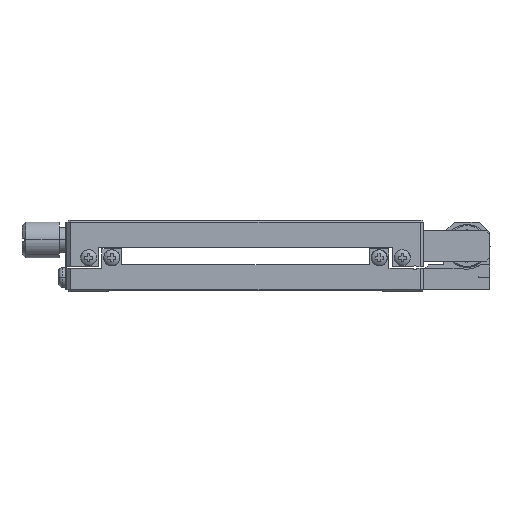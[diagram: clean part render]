
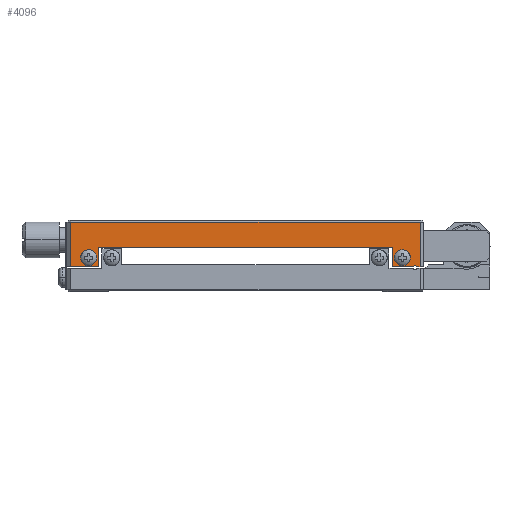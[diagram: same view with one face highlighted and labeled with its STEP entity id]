
A CAD part, left-side view. The second image highlights one B-rep face of the part: STEP entity #4096.
In plain terms, the highlighted planar face has unit normal (-1, 0, 0).
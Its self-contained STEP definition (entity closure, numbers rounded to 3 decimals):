
#850 = DIRECTION ( 'NONE',  ( 0., 0., 1. ) ) ;
#852 = DIRECTION ( 'NONE',  ( -1., 0., 0. ) ) ;
#853 = CARTESIAN_POINT ( 'NONE',  ( -113.597, 14.229, -43.95 ) ) ;
#872 = DIRECTION ( 'NONE',  ( 0., 0., 1. ) ) ;
#874 = DIRECTION ( 'NONE',  ( -1., 0., 0. ) ) ;
#875 = CARTESIAN_POINT ( 'NONE',  ( -113.597, 14.229, 43.95 ) ) ;
#2349 = CARTESIAN_POINT ( 'NONE',  ( -113.597, 11.729, 49. ) ) ;
#2357 = CARTESIAN_POINT ( 'NONE',  ( -113.597, 17.229, 0. ) ) ;
#2411 = CARTESIAN_POINT ( 'NONE',  ( -113.597, 14.229, -46.2 ) ) ;
#2414 = CARTESIAN_POINT ( 'NONE',  ( -113.597, 24.229, 0. ) ) ;
#2579 = DIRECTION ( 'NONE',  ( 0., 0., -1. ) ) ;
#2654 = CARTESIAN_POINT ( 'NONE',  ( -113.597, 14.229, 46.2 ) ) ;
#2660 = CARTESIAN_POINT ( 'NONE',  ( -113.597, 11.729, 48.161 ) ) ;
#2756 = CARTESIAN_POINT ( 'NONE',  ( -113.597, 24.229, 49. ) ) ;
#2858 = CARTESIAN_POINT ( 'NONE',  ( -113.597, 11.729, 46.839 ) ) ;
#2912 = CARTESIAN_POINT ( 'NONE',  ( -113.597, 11.729, -41.2 ) ) ;
#2941 = CARTESIAN_POINT ( 'NONE',  ( -113.597, 11.729, -49. ) ) ;
#2960 = CARTESIAN_POINT ( 'NONE',  ( -113.597, 14.229, -41.7 ) ) ;
#3137 = CARTESIAN_POINT ( 'NONE',  ( -113.597, 14.229, 41.7 ) ) ;
#3341 = EDGE_CURVE ( 'NONE', #14807, #12047, #20256, .T. ) ;
#3386 = EDGE_CURVE ( 'NONE', #14753, #4798, #12445, .T. ) ;
#3397 = EDGE_CURVE ( 'NONE', #4720, #12051, #12453, .T. ) ;
#3449 = EDGE_CURVE ( 'NONE', #4831, #4812, #12534, .T. ) ;
#3490 = EDGE_CURVE ( 'NONE', #4962, #14807, #12602, .T. ) ;
#3500 = EDGE_CURVE ( 'NONE', #17805, #4831, #12616, .T. ) ;
#3535 = EDGE_CURVE ( 'NONE', #4873, #12047, #12658, .T. ) ;
#3558 = EDGE_CURVE ( 'NONE', #4812, #19645, #12692, .T. ) ;
#3561 = EDGE_CURVE ( 'NONE', #17818, #17699, #12688, .T. ) ;
#3607 = EDGE_CURVE ( 'NONE', #4873, #17818, #12778, .T. ) ;
#3649 = DIRECTION ( 'NONE',  ( 0., 0., 1. ) ) ;
#3694 = AXIS2_PLACEMENT_3D ( 'NONE', #16111, #16110, #16108 ) ;
#3699 = AXIS2_PLACEMENT_3D ( 'NONE', #16064, #16063, #16061 ) ;
#3726 = AXIS2_PLACEMENT_3D ( 'NONE', #17110, #16694, #16696 ) ;
#4096 = ADVANCED_FACE ( 'NONE', ( #13396, #13406, #13401 ), #6801, .F. ) ;
#4720 = VERTEX_POINT ( 'NONE', #3137 ) ;
#4798 = VERTEX_POINT ( 'NONE', #2960 ) ;
#4812 = VERTEX_POINT ( 'NONE', #2941 ) ;
#4831 = VERTEX_POINT ( 'NONE', #2912 ) ;
#4873 = VERTEX_POINT ( 'NONE', #2858 ) ;
#4962 = VERTEX_POINT ( 'NONE', #2756 ) ;
#5786 = ORIENTED_EDGE ( 'NONE', *, *, #14990, .F. ) ;
#5787 = ORIENTED_EDGE ( 'NONE', *, *, #3397, .F. ) ;
#5788 = ORIENTED_EDGE ( 'NONE', *, *, #14986, .F. ) ;
#6285 = ORIENTED_EDGE ( 'NONE', *, *, #3490, .F. ) ;
#6287 = ORIENTED_EDGE ( 'NONE', *, *, #3535, .T. ) ;
#6331 = ORIENTED_EDGE ( 'NONE', *, *, #3386, .F. ) ;
#6352 = ORIENTED_EDGE ( 'NONE', *, *, #3449, .F. ) ;
#6360 = ORIENTED_EDGE ( 'NONE', *, *, #14949, .T. ) ;
#6387 = ORIENTED_EDGE ( 'NONE', *, *, #3558, .F. ) ;
#6658 = ORIENTED_EDGE ( 'NONE', *, *, #14950, .T. ) ;
#6666 = ORIENTED_EDGE ( 'NONE', *, *, #3341, .F. ) ;
#6696 = ORIENTED_EDGE ( 'NONE', *, *, #3561, .F. ) ;
#6699 = ORIENTED_EDGE ( 'NONE', *, *, #3500, .F. ) ;
#6701 = ORIENTED_EDGE ( 'NONE', *, *, #3607, .F. ) ;
#6745 = DIRECTION ( 'NONE',  ( 1., 0., 0. ) ) ;
#6751 = CARTESIAN_POINT ( 'NONE',  ( -113.597, 11.729, 49. ) ) ;
#6801 = PLANE ( 'NONE',  #17562 ) ;
#6863 = DIRECTION ( 'NONE',  ( 0., 0., -1. ) ) ;
#12047 = VERTEX_POINT ( 'NONE', #2660 ) ;
#12051 = VERTEX_POINT ( 'NONE', #2654 ) ;
#12445 = CIRCLE ( 'NONE', #3694, 2.25 ) ;
#12453 = CIRCLE ( 'NONE', #3699, 2.25 ) ;
#12534 = LINE ( 'NONE', #17116, #12548 ) ;
#12548 = VECTOR ( 'NONE', #16999, 1000. ) ;
#12602 = LINE ( 'NONE', #16056, #12606 ) ;
#12606 = VECTOR ( 'NONE', #16000, 1000. ) ;
#12616 = LINE ( 'NONE', #17274, #12620 ) ;
#12620 = VECTOR ( 'NONE', #16721, 1000. ) ;
#12658 = CIRCLE ( 'NONE', #3726, 1. ) ;
#12688 = LINE ( 'NONE', #16708, #12702 ) ;
#12692 = LINE ( 'NONE', #16753, #12698 ) ;
#12698 = VECTOR ( 'NONE', #16757, 1000. ) ;
#12702 = VECTOR ( 'NONE', #16759, 1000. ) ;
#12778 = LINE ( 'NONE', #17222, #12784 ) ;
#12784 = VECTOR ( 'NONE', #17225, 1000. ) ;
#13396 = FACE_BOUND ( 'NONE', #19562, .T. ) ;
#13401 = FACE_OUTER_BOUND ( 'NONE', #19575, .T. ) ;
#13406 = FACE_BOUND ( 'NONE', #19571, .T. ) ;
#13634 = LINE ( 'NONE', #2357, #13643 ) ;
#13642 = LINE ( 'NONE', #2414, #13646 ) ;
#13643 = VECTOR ( 'NONE', #3649, 1000. ) ;
#13646 = VECTOR ( 'NONE', #2579, 1000. ) ;
#13685 = CIRCLE ( 'NONE', #17674, 2.25 ) ;
#13691 = CIRCLE ( 'NONE', #17676, 2.25 ) ;
#14753 = VERTEX_POINT ( 'NONE', #2411 ) ;
#14807 = VERTEX_POINT ( 'NONE', #2349 ) ;
#14949 = EDGE_CURVE ( 'NONE', #17805, #17699, #13634, .T. ) ;
#14950 = EDGE_CURVE ( 'NONE', #4962, #19645, #13642, .T. ) ;
#14986 = EDGE_CURVE ( 'NONE', #12051, #4720, #13685, .T. ) ;
#14990 = EDGE_CURVE ( 'NONE', #4798, #14753, #13691, .T. ) ;
#16000 = DIRECTION ( 'NONE',  ( 0., -1., 0. ) ) ;
#16056 = CARTESIAN_POINT ( 'NONE',  ( -113.597, 17.979, 49. ) ) ;
#16061 = DIRECTION ( 'NONE',  ( 0., 0., 1. ) ) ;
#16063 = DIRECTION ( 'NONE',  ( -1., 0., 0. ) ) ;
#16064 = CARTESIAN_POINT ( 'NONE',  ( -113.597, 14.229, 43.95 ) ) ;
#16108 = DIRECTION ( 'NONE',  ( 0., 0., 1. ) ) ;
#16110 = DIRECTION ( 'NONE',  ( -1., 0., 0. ) ) ;
#16111 = CARTESIAN_POINT ( 'NONE',  ( -113.597, 14.229, -43.95 ) ) ;
#16275 = DIRECTION ( 'NONE',  ( 0., 0., -1. ) ) ;
#16287 = CARTESIAN_POINT ( 'NONE',  ( -113.597, 11.729, 0. ) ) ;
#16694 = DIRECTION ( 'NONE',  ( 1., 0., 0. ) ) ;
#16696 = DIRECTION ( 'NONE',  ( 0., 0., -1. ) ) ;
#16708 = CARTESIAN_POINT ( 'NONE',  ( -113.597, 17.979, 41.2 ) ) ;
#16721 = DIRECTION ( 'NONE',  ( 0., -1., 0. ) ) ;
#16753 = CARTESIAN_POINT ( 'NONE',  ( -113.597, 17.979, -49. ) ) ;
#16757 = DIRECTION ( 'NONE',  ( 0., 1., 0. ) ) ;
#16759 = DIRECTION ( 'NONE',  ( 0., 1., 0. ) ) ;
#16999 = DIRECTION ( 'NONE',  ( 0., 0., -1. ) ) ;
#17110 = CARTESIAN_POINT ( 'NONE',  ( -113.597, 10.979, 47.5 ) ) ;
#17116 = CARTESIAN_POINT ( 'NONE',  ( -113.597, 11.729, 0. ) ) ;
#17222 = CARTESIAN_POINT ( 'NONE',  ( -113.597, 11.729, 0. ) ) ;
#17225 = DIRECTION ( 'NONE',  ( 0., 0., -1. ) ) ;
#17274 = CARTESIAN_POINT ( 'NONE',  ( -113.597, 17.979, -41.2 ) ) ;
#17562 = AXIS2_PLACEMENT_3D ( 'NONE', #6751, #6745, #6863 ) ;
#17674 = AXIS2_PLACEMENT_3D ( 'NONE', #875, #874, #872 ) ;
#17676 = AXIS2_PLACEMENT_3D ( 'NONE', #853, #852, #850 ) ;
#17699 = VERTEX_POINT ( 'NONE', #18656 ) ;
#17805 = VERTEX_POINT ( 'NONE', #18760 ) ;
#17818 = VERTEX_POINT ( 'NONE', #18773 ) ;
#18186 = VECTOR ( 'NONE', #16275, 1000. ) ;
#18656 = CARTESIAN_POINT ( 'NONE',  ( -113.597, 17.229, 41.2 ) ) ;
#18760 = CARTESIAN_POINT ( 'NONE',  ( -113.597, 17.229, -41.2 ) ) ;
#18773 = CARTESIAN_POINT ( 'NONE',  ( -113.597, 11.729, 41.2 ) ) ;
#18892 = CARTESIAN_POINT ( 'NONE',  ( -113.597, 24.229, -49. ) ) ;
#19562 = EDGE_LOOP ( 'NONE', ( #5788, #5787 ) ) ;
#19571 = EDGE_LOOP ( 'NONE', ( #5786, #6331 ) ) ;
#19575 = EDGE_LOOP ( 'NONE', ( #6701, #6287, #6666, #6285, #6658, #6387, #6352, #6699, #6360, #6696 ) ) ;
#19645 = VERTEX_POINT ( 'NONE', #18892 ) ;
#20256 = LINE ( 'NONE', #16287, #18186 ) ;
